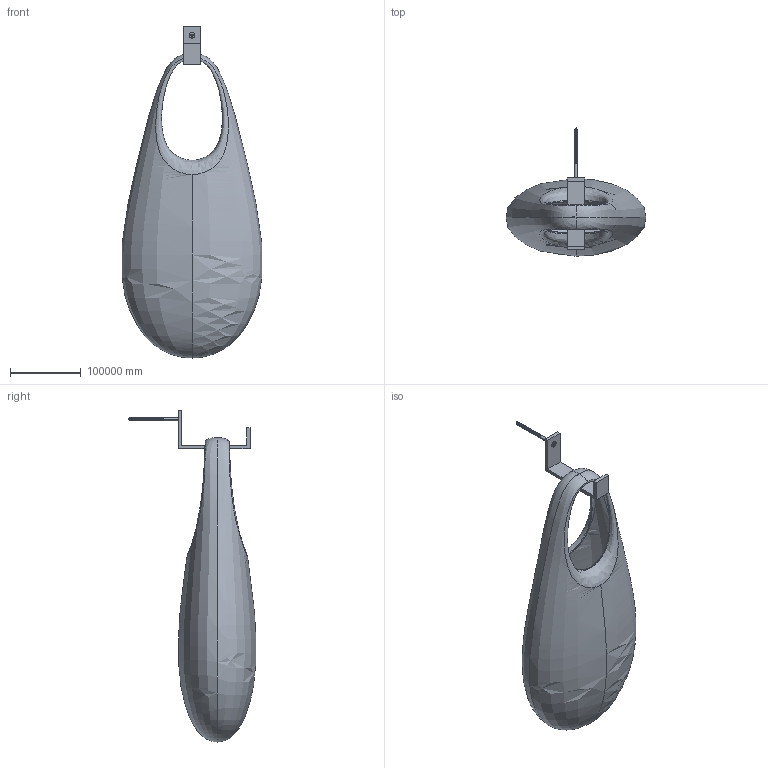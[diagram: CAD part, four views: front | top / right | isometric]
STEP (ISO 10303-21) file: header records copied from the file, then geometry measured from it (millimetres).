
FILE_DESCRIPTION(/* description */ (''),/* implementation_level */ '2;1');
FILE_NAME(/* name */ 'SkLO_Hold_Vessel_VA261_',/* time_stamp */ '2024-08-06T16:37:26+02:00',/* author */ (''),/* organization */ (''),/* preprocessor_version */ 'ST-DEVELOPER v16.5',/* originating_system */ 'Rhino 7.34',/* authorisation */ '');
FILE_SCHEMA (('CONFIG_CONTROL_DESIGN'));
Length unit declared in the file: metre
Products named in the file (3): Document; ST360; VA260
Assembly tree (2 placements, depth 2):
  Document
    ST360
    VA260
Bounding box: 198127.37 x 181449.55 x 470795.05 mm (x, y, z)
Volume: 612981530070988 mm3; surface area: 301682329902.1 mm2
Topology: 3 solids, 3 shells, 134 faces, 383 edges, 236 vertices
Faces by surface type: cylinder 61, bspline 37, plane 36
Entity records: 28466 total; most frequent: CARTESIAN_POINT 25885, ORIENTED_EDGE 730, EDGE_CURVE 365, B_SPLINE_CURVE_WITH_KNOTS 251, VERTEX_POINT 236, EDGE_LOOP 137, ADVANCED_FACE 134, FACE_OUTER_BOUND 134
